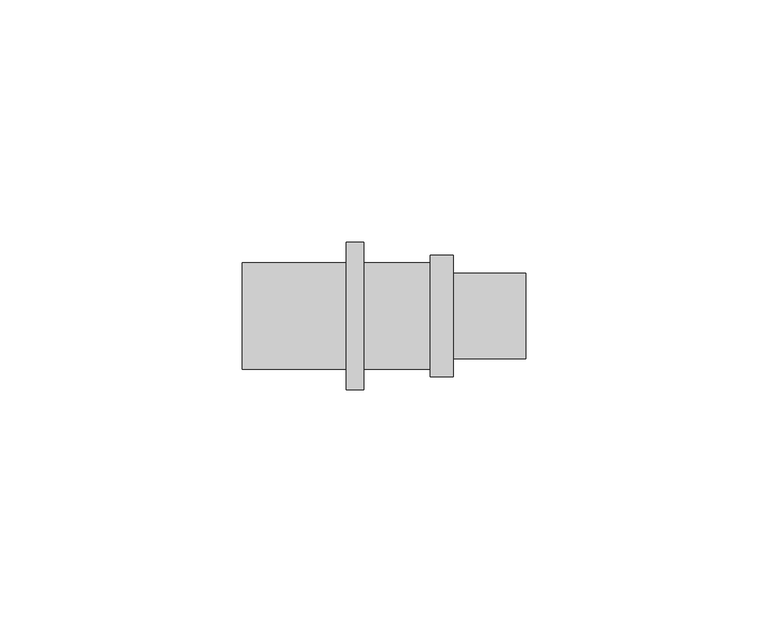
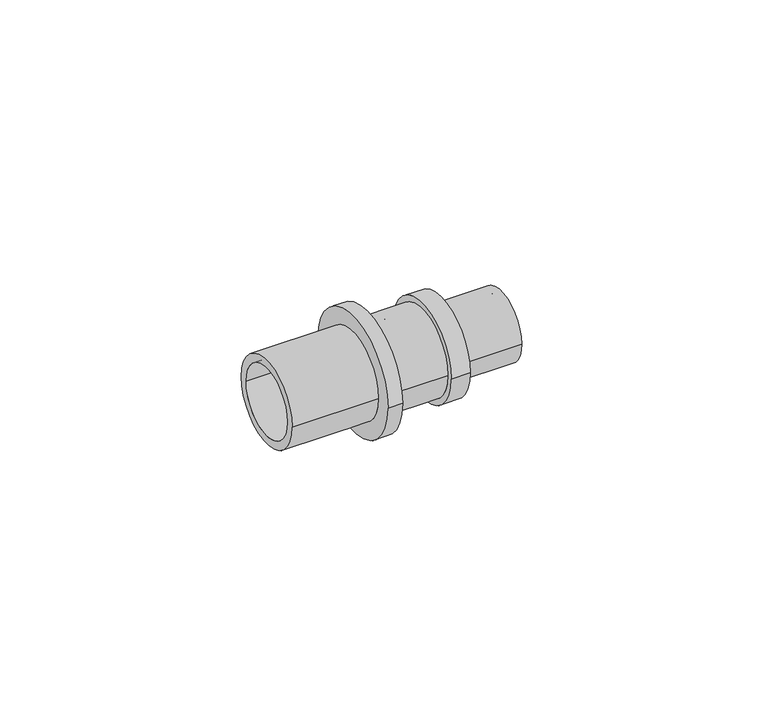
"""IFC4 building model written with IfcOpenShell, lengths in millimetres: pipe fitting geometry, Coupling transistion : C RE SDR11 LX."""

from ifc_helpers import new_model, si_unit, frame, origin, place, context, project, spatial, polyline, circle_curve, source, transform, mapped, element, save
from ifc_brep_helpers import plane_surface, cylinder_surface, revolved_surface, advanced_brep


def pipe_fitting_00baa34a(model_context):
    return source(origin(), model_context, "Body", "AdvancedBrep", [
        advanced_brep(
        [(-11.0, 11.0, 0.0), (-11.0, -11.0, 0.0), (-32.5, -11.0, 0.0), (-32.5, 11.0, 0.0), (-7.4, 15.2, 0.0), (-7.4, -15.2, 0.0), (-11.0, -15.2, 0.0), (-11.0, 15.2, 0.0), (6.3, 11.0, 0.0), (6.3, -11.0, 0.0), (-7.4, -11.0, 0.0), (-7.4, 11.0, 0.0), (11.0, 12.5, 0.0), (11.0, -12.5, 0.0), (6.3, -12.5, 0.0), (6.3, 12.5, 0.0), (26.0, 8.8, 0.0), (26.0, -8.8, 0.0), (11.0, -8.8, 0.0), (11.0, 8.8, 0.0), (0.0, 6.8, 0.0), (0.0, -6.8, 0.0), (26.0, -6.8, 0.0), (26.0, 6.8, 0.0), (-32.5, 8.9, 0.0), (-32.5, -8.9, 0.0), (0.0, -8.9, 0.0), (0.0, 8.9, 0.0)],
        [
            (0, 1, circle_curve(frame((-11.0, 0.0, 0.0), z_axis=(-1.0, 0.0, 0.0), x_axis=(0.0, -1.0, 0.0)), 11.0)),
            (1, 2),
            (2, 3, circle_curve(frame((-32.5, 0.0, 0.0), z_axis=(1.0, 0.0, 0.0), x_axis=(0.0, -1.0, 0.0)), 11.0)),
            (3, 0),
            (4, 5, circle_curve(frame((-7.4, 0.0, 0.0), z_axis=(-1.0, 0.0, 0.0), x_axis=(0.0, -1.0, 0.0)), 15.2)),
            (5, 6),
            (6, 7, circle_curve(frame((-11.0, 0.0, 0.0), z_axis=(1.0, 0.0, 0.0), x_axis=(0.0, -1.0, 0.0)), 15.2)),
            (7, 4),
            (8, 9, circle_curve(frame((6.3, 0.0, 0.0), z_axis=(-1.0, 0.0, 0.0), x_axis=(0.0, -1.0, 0.0)), 11.0)),
            (9, 10),
            (10, 11, circle_curve(frame((-7.4, 0.0, 0.0), z_axis=(1.0, 0.0, 0.0), x_axis=(0.0, -1.0, 0.0)), 11.0)),
            (11, 8),
            (12, 13, circle_curve(frame((11.0, 0.0, 0.0), z_axis=(-1.0, 0.0, 0.0), x_axis=(0.0, -1.0, 0.0)), 12.5)),
            (13, 14),
            (14, 15, circle_curve(frame((6.3, 0.0, 0.0), z_axis=(1.0, 0.0, 0.0), x_axis=(0.0, -1.0, 0.0)), 12.5)),
            (15, 12),
            (16, 17, circle_curve(frame((26.0, 0.0, 0.0), z_axis=(-1.0, 0.0, 0.0), x_axis=(0.0, -1.0, 0.0)), 8.8)),
            (17, 18),
            (18, 19, circle_curve(frame((11.0, 0.0, 0.0), z_axis=(1.0, 0.0, 0.0), x_axis=(0.0, -1.0, 0.0)), 8.8)),
            (19, 16),
            (20, 21, circle_curve(frame((0.0, 0.0, 0.0), z_axis=(-1.0, 0.0, 0.0), x_axis=(0.0, -1.0, 0.0)), 6.8)),
            (21, 22),
            (22, 23, circle_curve(frame((26.0, 0.0, 0.0), z_axis=(1.0, 0.0, 0.0), x_axis=(0.0, -1.0, 0.0)), 6.8)),
            (23, 20),
            (24, 25, circle_curve(frame((-32.5, 0.0, 0.0), z_axis=(-1.0, 0.0, 0.0), x_axis=(0.0, -1.0, 0.0)), 8.9)),
            (25, 26),
            (26, 27, circle_curve(frame((0.0, 0.0, 0.0), z_axis=(1.0, 0.0, 0.0), x_axis=(0.0, -1.0, 0.0)), 8.9)),
            (27, 24),
            (2, 3, circle_curve(frame((-32.5, 0.0, 0.0), z_axis=(-1.0, 0.0, 0.0), x_axis=(0.0, 1.0, 0.0)), 11.0)),
            (24, 25, circle_curve(frame((-32.5, 0.0, 0.0), z_axis=(1.0, 0.0, 0.0), x_axis=(0.0, 1.0, 0.0)), 8.9)),
            (1, 0, circle_curve(frame((-11.0, 0.0, 0.0), z_axis=(-1.0, 0.0, 0.0), x_axis=(0.0, 1.0, 0.0)), 11.0)),
            (6, 7, circle_curve(frame((-11.0, 0.0, 0.0), z_axis=(-1.0, 0.0, 0.0), x_axis=(0.0, 1.0, 0.0)), 15.2)),
            (5, 4, circle_curve(frame((-7.4, 0.0, 0.0), z_axis=(-1.0, 0.0, 0.0), x_axis=(0.0, 1.0, 0.0)), 15.2)),
            (10, 11, circle_curve(frame((-7.4, 0.0, 0.0), z_axis=(-1.0, 0.0, 0.0), x_axis=(0.0, 1.0, 0.0)), 11.0)),
            (9, 8, circle_curve(frame((6.3, 0.0, 0.0), z_axis=(-1.0, 0.0, 0.0), x_axis=(0.0, 1.0, 0.0)), 11.0)),
            (14, 15, circle_curve(frame((6.3, 0.0, 0.0), z_axis=(-1.0, 0.0, 0.0), x_axis=(0.0, 1.0, 0.0)), 12.5)),
            (13, 12, circle_curve(frame((11.0, 0.0, 0.0), z_axis=(-1.0, 0.0, 0.0), x_axis=(0.0, 1.0, 0.0)), 12.5)),
            (18, 19, circle_curve(frame((11.0, 0.0, 0.0), z_axis=(-1.0, 0.0, 0.0), x_axis=(0.0, 1.0, 0.0)), 8.8)),
            (17, 16, circle_curve(frame((26.0, 0.0, 0.0), z_axis=(-1.0, 0.0, 0.0), x_axis=(0.0, 1.0, 0.0)), 8.8)),
            (22, 23, circle_curve(frame((26.0, 0.0, 0.0), z_axis=(-1.0, 0.0, 0.0), x_axis=(0.0, 1.0, 0.0)), 6.8)),
            (21, 20, circle_curve(frame((0.0, 0.0, 0.0), z_axis=(-1.0, 0.0, 0.0), x_axis=(0.0, 1.0, 0.0)), 6.8)),
            (26, 27, circle_curve(frame((0.0, 0.0, 0.0), z_axis=(-1.0, 0.0, 0.0), x_axis=(0.0, 1.0, 0.0)), 8.9)),
        ],
        [
            cylinder_surface(frame((0.0, 0.0, 0.0), z_axis=(1.0, 0.0, 0.0), x_axis=(0.0, -1.0, 0.0)), 11.0),
            cylinder_surface(frame((0.0, 0.0, 0.0), z_axis=(1.0, 0.0, 0.0), x_axis=(0.0, -1.0, 0.0)), 15.2),
            cylinder_surface(frame((0.0, 0.0, 0.0), z_axis=(1.0, 0.0, 0.0), x_axis=(0.0, -1.0, 0.0)), 12.5),
            cylinder_surface(frame((0.0, 0.0, 0.0), z_axis=(1.0, 0.0, 0.0), x_axis=(0.0, -1.0, 0.0)), 8.8),
            revolved_surface(polyline([(26.0, -6.8, 0.0), (0.0, -6.8, 0.0)]), (0.0, 0.0, 0.0), (1.0, 0.0, 0.0)),
            revolved_surface(polyline([(0.0, -8.9, 0.0), (-32.5, -8.9, 0.0)]), (0.0, 0.0, 0.0), (1.0, 0.0, 0.0)),
            plane_surface(frame((-32.5, 0.0, 0.0), z_axis=(-1.0, 0.0, 0.0), x_axis=(0.0, 1.0, 0.0))),
            cylinder_surface(frame((0.0, 0.0, 0.0), z_axis=(1.0, 0.0, 0.0), x_axis=(0.0, 1.0, 0.0)), 11.0),
            plane_surface(frame((-11.0, 0.0, 0.0), z_axis=(-1.0, 0.0, 0.0), x_axis=(0.0, 1.0, 0.0))),
            cylinder_surface(frame((0.0, 0.0, 0.0), z_axis=(1.0, 0.0, 0.0), x_axis=(0.0, 1.0, 0.0)), 15.2),
            plane_surface(frame((-7.4, 0.0, 0.0), z_axis=(1.0, 0.0, 0.0), x_axis=(0.0, 1.0, 0.0))),
            plane_surface(frame((6.3, 0.0, 0.0), z_axis=(-1.0, 0.0, 0.0), x_axis=(0.0, 1.0, 0.0))),
            cylinder_surface(frame((0.0, 0.0, 0.0), z_axis=(1.0, 0.0, 0.0), x_axis=(0.0, 1.0, 0.0)), 12.5),
            plane_surface(frame((11.0, 0.0, 0.0), z_axis=(1.0, 0.0, 0.0), x_axis=(0.0, 1.0, 0.0))),
            cylinder_surface(frame((0.0, 0.0, 0.0), z_axis=(1.0, 0.0, 0.0), x_axis=(0.0, 1.0, 0.0)), 8.8),
            plane_surface(frame((26.0, 0.0, 0.0), z_axis=(1.0, 0.0, 0.0), x_axis=(0.0, 1.0, 0.0))),
            revolved_surface(polyline([(26.0, 6.8, 0.0), (0.0, 6.8, 0.0)]), (0.0, 0.0, 0.0), (1.0, 0.0, 0.0)),
            plane_surface(frame((0.0, 0.0, 0.0), z_axis=(-1.0, 0.0, 0.0), x_axis=(0.0, 1.0, 0.0))),
            revolved_surface(polyline([(0.0, 8.9, 0.0), (-32.5, 8.9, 0.0)]), (0.0, 0.0, 0.0), (1.0, 0.0, 0.0)),
        ],
        [
            (0, [[1, 2, 3, 4]]),
            (1, [[5, 6, 7, 8]]),
            (0, [[9, 10, 11, 12]]),
            (2, [[13, 14, 15, 16]]),
            (3, [[17, 18, 19, 20]]),
            (4, [[21, 22, 23, 24]]),
            (5, [[25, 26, 27, 28]]),
            (6, [[29, -3], [30, -25]]),
            (7, [[31, -4, -29, -2]]),
            (8, [[32, -7], [-31, -1]]),
            (9, [[33, -8, -32, -6]]),
            (10, [[-33, -5], [34, -11]]),
            (7, [[35, -12, -34, -10]]),
            (11, [[36, -15], [-35, -9]]),
            (12, [[37, -16, -36, -14]]),
            (13, [[-37, -13], [38, -19]]),
            (14, [[39, -20, -38, -18]]),
            (15, [[-39, -17], [40, -23]]),
            (16, [[41, -24, -40, -22]]),
            (17, [[42, -27], [-41, -21]]),
            (18, [[-30, -28, -42, -26]]),
        ],
    ),
    ])


if __name__ == "__main__":
    model = new_model("IFC4")
    model_context = context("Model", 3, world=origin())
    ifc_project = project(units=[si_unit("LENGTHUNIT", "METRE", prefix="MILLI")], contexts=[model_context])
    site = spatial("IfcSite", under=ifc_project)
    building = spatial("IfcBuilding", under=site)
    placement = place(None, origin())
    pipe_fitting_shape = pipe_fitting_00baa34a(model_context)
    element("IfcPipeFitting", 1, ObjectType="Coupling transistion : C RE SDR11 LX", at=placement, inside=building, context=model_context, shape_type="MappedRepresentation", body=[
        mapped(pipe_fitting_shape, transform((0.0, 0.0, 0.0), x_axis=(1.0, 0.0, 0.0), y_axis=(0.0, 1.0, 0.0), z_axis=(0.0, 0.0, 1.0))),
    ])
    save(model, "model.ifc")
